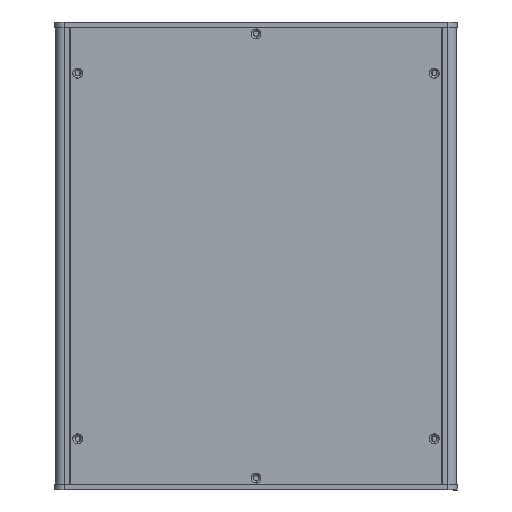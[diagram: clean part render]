
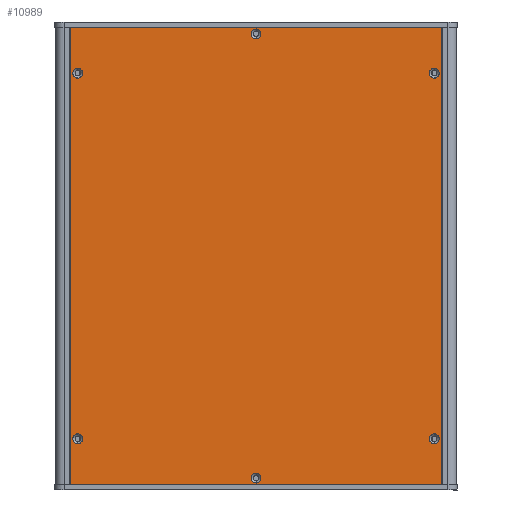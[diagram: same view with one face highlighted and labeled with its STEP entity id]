
A CAD part, front view. The second image highlights one B-rep face of the part: STEP entity #10989.
In plain terms, the highlighted planar face has unit normal (0, -1, 0) as drawn and (0, 1, 0) by its records, which use the part's own axes.
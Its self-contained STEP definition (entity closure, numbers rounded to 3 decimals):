
#62 = CARTESIAN_POINT ( 'NONE',  ( 97.5, 0.75, -225. ) ) ;
#222 = CARTESIAN_POINT ( 'NONE',  ( -97.5, 0.75, -222.3 ) ) ;
#322 = CARTESIAN_POINT ( 'NONE',  ( 0., 0.75, -3.5 ) ) ;
#439 = AXIS2_PLACEMENT_3D ( 'NONE', #8279, #13085, #7100 ) ;
#585 = VERTEX_POINT ( 'NONE', #12664 ) ;
#748 = DIRECTION ( 'NONE',  ( 0., -1., 0. ) ) ;
#749 = CARTESIAN_POINT ( 'NONE',  ( 97.5, 0.75, -25. ) ) ;
#754 = FACE_BOUND ( 'NONE', #1928, .T. ) ;
#916 = VERTEX_POINT ( 'NONE', #8497 ) ;
#1036 = LINE ( 'NONE', #11836, #4229 ) ;
#1225 = DIRECTION ( 'NONE',  ( -1., 0., 0. ) ) ;
#1405 = ORIENTED_EDGE ( 'NONE', *, *, #12849, .F. ) ;
#1471 = EDGE_LOOP ( 'NONE', ( #10490, #15351 ) ) ;
#1677 = AXIS2_PLACEMENT_3D ( 'NONE', #13665, #2858, #13746 ) ;
#1720 = DIRECTION ( 'NONE',  ( 0., -1., 0. ) ) ;
#1928 = EDGE_LOOP ( 'NONE', ( #11236, #4765 ) ) ;
#1972 = CARTESIAN_POINT ( 'NONE',  ( 97.5, 0.75, -227.7 ) ) ;
#2393 = VERTEX_POINT ( 'NONE', #3226 ) ;
#2436 = ORIENTED_EDGE ( 'NONE', *, *, #14266, .T. ) ;
#2444 = CARTESIAN_POINT ( 'NONE',  ( 0., 0.75, -249.2 ) ) ;
#2494 = ORIENTED_EDGE ( 'NONE', *, *, #4244, .T. ) ;
#2550 = CARTESIAN_POINT ( 'NONE',  ( 0., 0.75, -0.8 ) ) ;
#2669 = CIRCLE ( 'NONE', #14774, 2.7 ) ;
#2670 = VERTEX_POINT ( 'NONE', #14556 ) ;
#2703 = CIRCLE ( 'NONE', #11498, 2.7 ) ;
#2780 = EDGE_CURVE ( 'NONE', #7828, #11081, #3880, .T. ) ;
#2813 = AXIS2_PLACEMENT_3D ( 'NONE', #749, #5623, #10362 ) ;
#2858 = DIRECTION ( 'NONE',  ( 0., -1., 0. ) ) ;
#2884 = FACE_BOUND ( 'NONE', #1471, .T. ) ;
#2989 = ORIENTED_EDGE ( 'NONE', *, *, #7814, .T. ) ;
#3100 = CARTESIAN_POINT ( 'NONE',  ( 0., 0.75, -246.5 ) ) ;
#3110 = EDGE_LOOP ( 'NONE', ( #7463, #2494 ) ) ;
#3153 = VECTOR ( 'NONE', #13505, 1000. ) ;
#3226 = CARTESIAN_POINT ( 'NONE',  ( 97.5, 0.75, -22.3 ) ) ;
#3441 = EDGE_CURVE ( 'NONE', #4691, #6117, #15281, .T. ) ;
#3485 = DIRECTION ( 'NONE',  ( 0., 0., 1. ) ) ;
#3619 = CIRCLE ( 'NONE', #11184, 2.7 ) ;
#3845 = CARTESIAN_POINT ( 'NONE',  ( 0., 0.75, -246.5 ) ) ;
#3880 = LINE ( 'NONE', #8689, #3153 ) ;
#3918 = CIRCLE ( 'NONE', #12727, 2.7 ) ;
#3923 = DIRECTION ( 'NONE',  ( 0., 0., 1. ) ) ;
#3983 = DIRECTION ( 'NONE',  ( 0., -1., 0. ) ) ;
#4051 = VERTEX_POINT ( 'NONE', #2444 ) ;
#4142 = FACE_BOUND ( 'NONE', #9469, .T. ) ;
#4229 = VECTOR ( 'NONE', #3485, 1000. ) ;
#4241 = EDGE_CURVE ( 'NONE', #6981, #4051, #3918, .T. ) ;
#4244 = EDGE_CURVE ( 'NONE', #6117, #4691, #2669, .T. ) ;
#4289 = DIRECTION ( 'NONE',  ( 0., 1., 0. ) ) ;
#4567 = CARTESIAN_POINT ( 'NONE',  ( 0., 0.75, -243.8 ) ) ;
#4570 = AXIS2_PLACEMENT_3D ( 'NONE', #62, #3983, #8637 ) ;
#4616 = EDGE_CURVE ( 'NONE', #12241, #15361, #7363, .T. ) ;
#4691 = VERTEX_POINT ( 'NONE', #222 ) ;
#4765 = ORIENTED_EDGE ( 'NONE', *, *, #14177, .T. ) ;
#4803 = EDGE_CURVE ( 'NONE', #13042, #5479, #6069, .T. ) ;
#4807 = CARTESIAN_POINT ( 'NONE',  ( -97.5, 0.75, -27.7 ) ) ;
#4806 = DIRECTION ( 'NONE',  ( -1., 0., 0. ) ) ;
#4903 = EDGE_CURVE ( 'NONE', #2393, #916, #9613, .T. ) ;
#4969 = CARTESIAN_POINT ( 'NONE',  ( -101.6, 0.75, -250. ) ) ;
#4983 = CARTESIAN_POINT ( 'NONE',  ( -97.5, 0.75, -22.3 ) ) ;
#5046 = LINE ( 'NONE', #9854, #8496 ) ;
#5105 = ORIENTED_EDGE ( 'NONE', *, *, #4616, .T. ) ;
#5111 = ORIENTED_EDGE ( 'NONE', *, *, #4903, .T. ) ;
#5303 = ORIENTED_EDGE ( 'NONE', *, *, #2780, .T. ) ;
#5478 = CARTESIAN_POINT ( 'NONE',  ( -101.6, 0.75, -250. ) ) ;
#5479 = VERTEX_POINT ( 'NONE', #4807 ) ;
#5590 = CARTESIAN_POINT ( 'NONE',  ( 101.6, 0.75, 0. ) ) ;
#5595 = EDGE_CURVE ( 'NONE', #2670, #8666, #14333, .T. ) ;
#5613 = VECTOR ( 'NONE', #1225, 1000. ) ;
#5623 = DIRECTION ( 'NONE',  ( 0., -1., 0. ) ) ;
#5872 = ORIENTED_EDGE ( 'NONE', *, *, #11502, .T. ) ;
#6069 = CIRCLE ( 'NONE', #10097, 2.7 ) ;
#6117 = VERTEX_POINT ( 'NONE', #12573 ) ;
#6447 = FACE_OUTER_BOUND ( 'NONE', #9100, .T. ) ;
#6645 = CARTESIAN_POINT ( 'NONE',  ( -97.5, 0.75, -25. ) ) ;
#6756 = DIRECTION ( 'NONE',  ( 0., -1., 0. ) ) ;
#6886 = EDGE_LOOP ( 'NONE', ( #12007, #5872 ) ) ;
#6981 = VERTEX_POINT ( 'NONE', #4567 ) ;
#7100 = DIRECTION ( 'NONE',  ( 0., 0., 1. ) ) ;
#7301 = LINE ( 'NONE', #12091, #5613 ) ;
#7363 = CIRCLE ( 'NONE', #4570, 2.7 ) ;
#7413 = DIRECTION ( 'NONE',  ( 0., 0., 1. ) ) ;
#7463 = ORIENTED_EDGE ( 'NONE', *, *, #3441, .T. ) ;
#7644 = DIRECTION ( 'NONE',  ( 0., 0., 1. ) ) ;
#7651 = ORIENTED_EDGE ( 'NONE', *, *, #13404, .T. ) ;
#7814 = EDGE_CURVE ( 'NONE', #916, #2393, #9764, .T. ) ;
#7828 = VERTEX_POINT ( 'NONE', #4969 ) ;
#7916 = EDGE_CURVE ( 'NONE', #8886, #11081, #5046, .T. ) ;
#8207 = EDGE_LOOP ( 'NONE', ( #5111, #2989 ) ) ;
#8279 = CARTESIAN_POINT ( 'NONE',  ( 97.5, 0.75, -25. ) ) ;
#8496 = VECTOR ( 'NONE', #4806, 1000. ) ;
#8497 = CARTESIAN_POINT ( 'NONE',  ( 97.5, 0.75, -27.7 ) ) ;
#8637 = DIRECTION ( 'NONE',  ( 0., 0., 1. ) ) ;
#8666 = VERTEX_POINT ( 'NONE', #2550 ) ;
#8689 = CARTESIAN_POINT ( 'NONE',  ( -101.6, 0.75, -250. ) ) ;
#8786 = AXIS2_PLACEMENT_3D ( 'NONE', #5478, #4289, #9111 ) ;
#8886 = VERTEX_POINT ( 'NONE', #5590 ) ;
#9054 = CIRCLE ( 'NONE', #15106, 2.7 ) ;
#9077 = EDGE_CURVE ( 'NONE', #8666, #2670, #2703, .T. ) ;
#9100 = EDGE_LOOP ( 'NONE', ( #15067, #1405, #2436, #5303 ) ) ;
#9111 = DIRECTION ( 'NONE',  ( 0., 0., 1. ) ) ;
#9156 = DIRECTION ( 'NONE',  ( 0., 0., 1. ) ) ;
#9412 = DIRECTION ( 'NONE',  ( 0., 0., 1. ) ) ;
#9469 = EDGE_LOOP ( 'NONE', ( #5105, #7651 ) ) ;
#9613 = CIRCLE ( 'NONE', #2813, 2.7 ) ;
#9764 = CIRCLE ( 'NONE', #439, 2.7 ) ;
#9854 = CARTESIAN_POINT ( 'NONE',  ( -101.6, 0.75, 0. ) ) ;
#9925 = DIRECTION ( 'NONE',  ( 0., -1., 0. ) ) ;
#10010 = CARTESIAN_POINT ( 'NONE',  ( 0., 0.75, -3.5 ) ) ;
#10097 = AXIS2_PLACEMENT_3D ( 'NONE', #14955, #6756, #15108 ) ;
#10362 = DIRECTION ( 'NONE',  ( 0., 0., 1. ) ) ;
#10406 = AXIS2_PLACEMENT_3D ( 'NONE', #3100, #748, #9412 ) ;
#10443 = CARTESIAN_POINT ( 'NONE',  ( -101.6, 0.75, 0. ) ) ;
#10490 = ORIENTED_EDGE ( 'NONE', *, *, #9077, .T. ) ;
#10875 = CARTESIAN_POINT ( 'NONE',  ( 97.5, 0.75, -225. ) ) ;
#10883 = DIRECTION ( 'NONE',  ( 0., 0., 1. ) ) ;
#10952 = DIRECTION ( 'NONE',  ( 0., -1., 0. ) ) ;
#10989 = ADVANCED_FACE ( 'NONE', ( #2884, #754, #14963, #4142, #15043, #12426, #6447 ), #11247, .T. ) ;
#11081 = VERTEX_POINT ( 'NONE', #10443 ) ;
#11111 = CARTESIAN_POINT ( 'NONE',  ( -97.5, 0.75, -225. ) ) ;
#11176 = CARTESIAN_POINT ( 'NONE',  ( 97.5, 0.75, -222.3 ) ) ;
#11184 = AXIS2_PLACEMENT_3D ( 'NONE', #10875, #10952, #7413 ) ;
#11236 = ORIENTED_EDGE ( 'NONE', *, *, #4241, .T. ) ;
#11247 = PLANE ( 'NONE',  #8786 ) ;
#11262 = DIRECTION ( 'NONE',  ( 0., 0., 1. ) ) ;
#11434 = DIRECTION ( 'NONE',  ( 0., -1., 0. ) ) ;
#11498 = AXIS2_PLACEMENT_3D ( 'NONE', #322, #14528, #10883 ) ;
#11502 = EDGE_CURVE ( 'NONE', #5479, #13042, #9054, .T. ) ;
#11836 = CARTESIAN_POINT ( 'NONE',  ( 101.6, 0.75, -250. ) ) ;
#12007 = ORIENTED_EDGE ( 'NONE', *, *, #4803, .T. ) ;
#12091 = CARTESIAN_POINT ( 'NONE',  ( -101.6, 0.75, -250. ) ) ;
#12241 = VERTEX_POINT ( 'NONE', #11176 ) ;
#12426 = FACE_BOUND ( 'NONE', #3110, .T. ) ;
#12443 = DIRECTION ( 'NONE',  ( 0., -1., 0. ) ) ;
#12573 = CARTESIAN_POINT ( 'NONE',  ( -97.5, 0.75, -227.7 ) ) ;
#12664 = CARTESIAN_POINT ( 'NONE',  ( 101.6, 0.75, -250. ) ) ;
#12727 = AXIS2_PLACEMENT_3D ( 'NONE', #3845, #1720, #7644 ) ;
#12849 = EDGE_CURVE ( 'NONE', #585, #8886, #1036, .T. ) ;
#13042 = VERTEX_POINT ( 'NONE', #4983 ) ;
#13085 = DIRECTION ( 'NONE',  ( 0., -1., 0. ) ) ;
#13323 = AXIS2_PLACEMENT_3D ( 'NONE', #10010, #12443, #11262 ) ;
#13404 = EDGE_CURVE ( 'NONE', #15361, #12241, #3619, .T. ) ;
#13505 = DIRECTION ( 'NONE',  ( 0., 0., 1. ) ) ;
#13665 = CARTESIAN_POINT ( 'NONE',  ( -97.5, 0.75, -225. ) ) ;
#13746 = DIRECTION ( 'NONE',  ( 0., 0., 1. ) ) ;
#14177 = EDGE_CURVE ( 'NONE', #4051, #6981, #15456, .T. ) ;
#14266 = EDGE_CURVE ( 'NONE', #585, #7828, #7301, .T. ) ;
#14333 = CIRCLE ( 'NONE', #13323, 2.7 ) ;
#14528 = DIRECTION ( 'NONE',  ( 0., -1., 0. ) ) ;
#14556 = CARTESIAN_POINT ( 'NONE',  ( 0., 0.75, -6.2 ) ) ;
#14774 = AXIS2_PLACEMENT_3D ( 'NONE', #11111, #9925, #3923 ) ;
#14955 = CARTESIAN_POINT ( 'NONE',  ( -97.5, 0.75, -25. ) ) ;
#14963 = FACE_BOUND ( 'NONE', #8207, .T. ) ;
#15043 = FACE_BOUND ( 'NONE', #6886, .T. ) ;
#15067 = ORIENTED_EDGE ( 'NONE', *, *, #7916, .F. ) ;
#15106 = AXIS2_PLACEMENT_3D ( 'NONE', #6645, #11434, #9156 ) ;
#15108 = DIRECTION ( 'NONE',  ( 0., 0., 1. ) ) ;
#15281 = CIRCLE ( 'NONE', #1677, 2.7 ) ;
#15351 = ORIENTED_EDGE ( 'NONE', *, *, #5595, .T. ) ;
#15361 = VERTEX_POINT ( 'NONE', #1972 ) ;
#15456 = CIRCLE ( 'NONE', #10406, 2.7 ) ;
